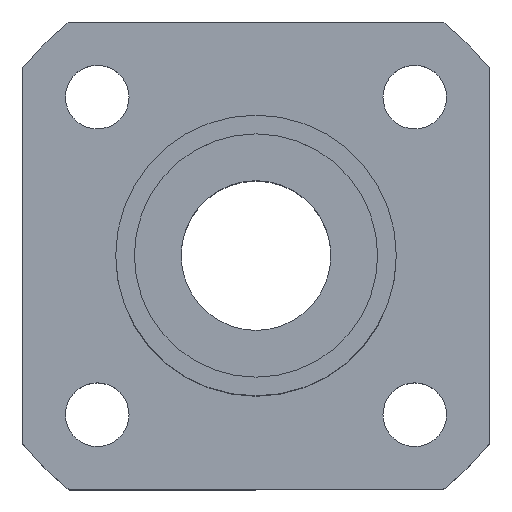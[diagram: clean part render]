
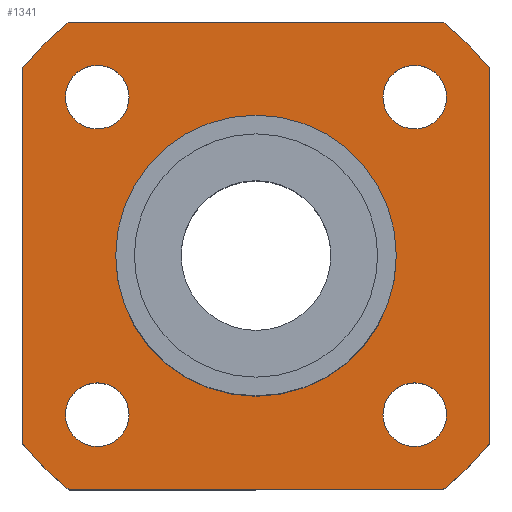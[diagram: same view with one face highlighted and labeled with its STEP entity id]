
A CAD part, top view. The second image highlights one B-rep face of the part: STEP entity #1341.
In plain terms, the highlighted planar face has unit normal (0, 0, 1).
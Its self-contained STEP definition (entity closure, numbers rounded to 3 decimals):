
#91=CARTESIAN_POINT('',(-21.531,3.294,5.0));
#92=VERTEX_POINT('',#91);
#101=CARTESIAN_POINT('',(-6.531,3.294,5.0));
#102=VERTEX_POINT('',#101);
#103=CARTESIAN_POINT('',(-14.031,3.294,5.0));
#104=DIRECTION('',(0.0,0.0,-1.0));
#105=DIRECTION('',(-1.0,0.0,0.0));
#106=AXIS2_PLACEMENT_3D('',#103,#104,#105);
#107=CIRCLE('',#106,7.5);
#108=EDGE_CURVE('',#102,#92,#107,.T.);
#217=CARTESIAN_POINT('',(-20.816,-5.191,5.0));
#218=VERTEX_POINT('',#217);
#227=CARTESIAN_POINT('',(-24.216,-5.191,5.0));
#228=VERTEX_POINT('',#227);
#229=CARTESIAN_POINT('',(-22.516,-5.191,5.0));
#230=DIRECTION('',(0.0,0.0,-1.0));
#231=DIRECTION('',(1.0,0.0,0.0));
#232=AXIS2_PLACEMENT_3D('',#229,#230,#231);
#233=CIRCLE('',#232,1.7);
#234=EDGE_CURVE('',#228,#218,#233,.T.);
#301=CARTESIAN_POINT('',(-3.845,11.78,5.0));
#302=VERTEX_POINT('',#301);
#311=CARTESIAN_POINT('',(-7.245,11.78,5.0));
#312=VERTEX_POINT('',#311);
#313=CARTESIAN_POINT('',(-5.545,11.78,5.0));
#314=DIRECTION('',(0.0,0.0,-1.0));
#315=DIRECTION('',(1.0,0.0,0.0));
#316=AXIS2_PLACEMENT_3D('',#313,#314,#315);
#317=CIRCLE('',#316,1.7);
#318=EDGE_CURVE('',#312,#302,#317,.T.);
#385=CARTESIAN_POINT('',(-20.816,11.78,5.0));
#386=VERTEX_POINT('',#385);
#395=CARTESIAN_POINT('',(-24.216,11.78,5.0));
#396=VERTEX_POINT('',#395);
#397=CARTESIAN_POINT('',(-22.516,11.78,5.0));
#398=DIRECTION('',(0.0,0.0,-1.0));
#399=DIRECTION('',(1.0,0.0,0.0));
#400=AXIS2_PLACEMENT_3D('',#397,#398,#399);
#401=CIRCLE('',#400,1.7);
#402=EDGE_CURVE('',#396,#386,#401,.T.);
#469=CARTESIAN_POINT('',(-3.845,-5.191,5.0));
#470=VERTEX_POINT('',#469);
#479=CARTESIAN_POINT('',(-7.245,-5.191,5.0));
#480=VERTEX_POINT('',#479);
#481=CARTESIAN_POINT('',(-5.545,-5.191,5.0));
#482=DIRECTION('',(0.0,0.0,-1.0));
#483=DIRECTION('',(1.0,0.0,0.0));
#484=AXIS2_PLACEMENT_3D('',#481,#482,#483);
#485=CIRCLE('',#484,1.7);
#486=EDGE_CURVE('',#480,#470,#485,.T.);
#686=CARTESIAN_POINT('',(-5.545,-5.191,5.0));
#687=DIRECTION('',(0.0,0.0,-1.0));
#688=DIRECTION('',(1.0,0.0,0.0));
#689=AXIS2_PLACEMENT_3D('',#686,#687,#688);
#690=CIRCLE('',#689,1.7);
#691=EDGE_CURVE('',#470,#480,#690,.T.);
#748=CARTESIAN_POINT('',(-22.516,11.78,5.0));
#749=DIRECTION('',(0.0,0.0,-1.0));
#750=DIRECTION('',(1.0,0.0,0.0));
#751=AXIS2_PLACEMENT_3D('',#748,#749,#750);
#752=CIRCLE('',#751,1.7);
#753=EDGE_CURVE('',#386,#396,#752,.T.);
#810=CARTESIAN_POINT('',(-5.545,11.78,5.0));
#811=DIRECTION('',(0.0,0.0,-1.0));
#812=DIRECTION('',(1.0,0.0,0.0));
#813=AXIS2_PLACEMENT_3D('',#810,#811,#812);
#814=CIRCLE('',#813,1.7);
#815=EDGE_CURVE('',#302,#312,#814,.T.);
#872=CARTESIAN_POINT('',(-22.516,-5.191,5.0));
#873=DIRECTION('',(0.0,0.0,-1.0));
#874=DIRECTION('',(1.0,0.0,0.0));
#875=AXIS2_PLACEMENT_3D('',#872,#873,#874);
#876=CIRCLE('',#875,1.7);
#877=EDGE_CURVE('',#218,#228,#876,.T.);
#1074=CARTESIAN_POINT('',(-14.031,3.294,5.0));
#1075=DIRECTION('',(0.0,0.0,-1.0));
#1076=DIRECTION('',(-1.0,0.0,0.0));
#1077=AXIS2_PLACEMENT_3D('',#1074,#1075,#1076);
#1078=CIRCLE('',#1077,7.5);
#1079=EDGE_CURVE('',#92,#102,#1078,.T.);
#1115=CARTESIAN_POINT('',(-4.043,15.794,5.0));
#1116=VERTEX_POINT('',#1115);
#1117=CARTESIAN_POINT('',(-1.531,13.282,5.0));
#1118=VERTEX_POINT('',#1117);
#1119=CARTESIAN_POINT('',(-14.031,3.294,5.0));
#1120=DIRECTION('',(0.0,0.0,-1.0));
#1121=DIRECTION('',(0.781,0.624,0.0));
#1122=AXIS2_PLACEMENT_3D('',#1119,#1120,#1121);
#1123=CIRCLE('',#1122,16.0);
#1124=EDGE_CURVE('',#1116,#1118,#1123,.T.);
#1147=CARTESIAN_POINT('',(-1.531,-6.693,5.0));
#1148=VERTEX_POINT('',#1147);
#1149=CARTESIAN_POINT('',(-1.531,13.282,5.0));
#1150=DIRECTION('',(0.0,-1.0,0.0));
#1151=VECTOR('',#1150,19.975);
#1152=LINE('',#1149,#1151);
#1153=EDGE_CURVE('',#1118,#1148,#1152,.T.);
#1171=CARTESIAN_POINT('',(-4.043,-9.206,5.0));
#1172=VERTEX_POINT('',#1171);
#1173=CARTESIAN_POINT('',(-14.031,3.294,5.0));
#1174=DIRECTION('',(0.0,0.0,-1.0));
#1175=DIRECTION('',(0.624,-0.781,0.0));
#1176=AXIS2_PLACEMENT_3D('',#1173,#1174,#1175);
#1177=CIRCLE('',#1176,16.0);
#1178=EDGE_CURVE('',#1148,#1172,#1177,.T.);
#1196=CARTESIAN_POINT('',(-24.018,-9.206,5.0));
#1197=VERTEX_POINT('',#1196);
#1198=CARTESIAN_POINT('',(-4.043,-9.206,5.0));
#1199=DIRECTION('',(-1.0,0.0,0.0));
#1200=VECTOR('',#1199,19.975);
#1201=LINE('',#1198,#1200);
#1202=EDGE_CURVE('',#1172,#1197,#1201,.T.);
#1220=CARTESIAN_POINT('',(-26.531,-6.693,5.0));
#1221=VERTEX_POINT('',#1220);
#1222=CARTESIAN_POINT('',(-14.031,3.294,5.0));
#1223=DIRECTION('',(0.0,0.0,-1.0));
#1224=DIRECTION('',(-0.781,-0.624,0.0));
#1225=AXIS2_PLACEMENT_3D('',#1222,#1223,#1224);
#1226=CIRCLE('',#1225,16.0);
#1227=EDGE_CURVE('',#1197,#1221,#1226,.T.);
#1245=CARTESIAN_POINT('',(-26.531,13.282,5.0));
#1246=VERTEX_POINT('',#1245);
#1247=CARTESIAN_POINT('',(-26.531,-6.693,5.0));
#1248=DIRECTION('',(0.0,1.0,0.0));
#1249=VECTOR('',#1248,19.975);
#1250=LINE('',#1247,#1249);
#1251=EDGE_CURVE('',#1221,#1246,#1250,.T.);
#1269=CARTESIAN_POINT('',(-24.018,15.794,5.0));
#1270=VERTEX_POINT('',#1269);
#1271=CARTESIAN_POINT('',(-14.031,3.294,5.0));
#1272=DIRECTION('',(0.0,0.0,-1.));
#1273=DIRECTION('',(-0.624,0.781,0.0));
#1274=AXIS2_PLACEMENT_3D('',#1271,#1272,#1273);
#1275=CIRCLE('',#1274,16.0);
#1276=EDGE_CURVE('',#1246,#1270,#1275,.T.);
#1294=CARTESIAN_POINT('',(-24.018,15.794,5.0));
#1295=DIRECTION('',(1.0,0.0,0.0));
#1296=VECTOR('',#1295,19.975);
#1297=LINE('',#1294,#1296);
#1298=EDGE_CURVE('',#1270,#1116,#1297,.T.);
#1306=CARTESIAN_POINT('',(-14.031,3.294,5.0));
#1307=DIRECTION('',(0.0,0.0,1.0));
#1308=DIRECTION('',(1.0,0.0,0.0));
#1309=AXIS2_PLACEMENT_3D('',#1306,#1307,#1308);
#1310=PLANE('',#1309);
#1311=ORIENTED_EDGE('',*,*,#1124,.F.);
#1312=ORIENTED_EDGE('',*,*,#1298,.F.);
#1313=ORIENTED_EDGE('',*,*,#1276,.F.);
#1314=ORIENTED_EDGE('',*,*,#1251,.F.);
#1315=ORIENTED_EDGE('',*,*,#1227,.F.);
#1316=ORIENTED_EDGE('',*,*,#1202,.F.);
#1317=ORIENTED_EDGE('',*,*,#1178,.F.);
#1318=ORIENTED_EDGE('',*,*,#1153,.F.);
#1319=EDGE_LOOP('',(#1311,#1312,#1313,#1314,#1315,#1316,#1317,#1318));
#1320=FACE_OUTER_BOUND('',#1319,.T.);
#1321=ORIENTED_EDGE('',*,*,#486,.T.);
#1322=ORIENTED_EDGE('',*,*,#691,.T.);
#1323=EDGE_LOOP('',(#1321,#1322));
#1324=FACE_BOUND('',#1323,.T.);
#1325=ORIENTED_EDGE('',*,*,#402,.T.);
#1326=ORIENTED_EDGE('',*,*,#753,.T.);
#1327=EDGE_LOOP('',(#1325,#1326));
#1328=FACE_BOUND('',#1327,.T.);
#1329=ORIENTED_EDGE('',*,*,#318,.T.);
#1330=ORIENTED_EDGE('',*,*,#815,.T.);
#1331=EDGE_LOOP('',(#1329,#1330));
#1332=FACE_BOUND('',#1331,.T.);
#1333=ORIENTED_EDGE('',*,*,#234,.T.);
#1334=ORIENTED_EDGE('',*,*,#877,.T.);
#1335=EDGE_LOOP('',(#1333,#1334));
#1336=FACE_BOUND('',#1335,.T.);
#1337=ORIENTED_EDGE('',*,*,#108,.T.);
#1338=ORIENTED_EDGE('',*,*,#1079,.T.);
#1339=EDGE_LOOP('',(#1337,#1338));
#1340=FACE_BOUND('',#1339,.T.);
#1341=ADVANCED_FACE('',(#1320,#1324,#1328,#1332,#1336,#1340),#1310,.T.);
